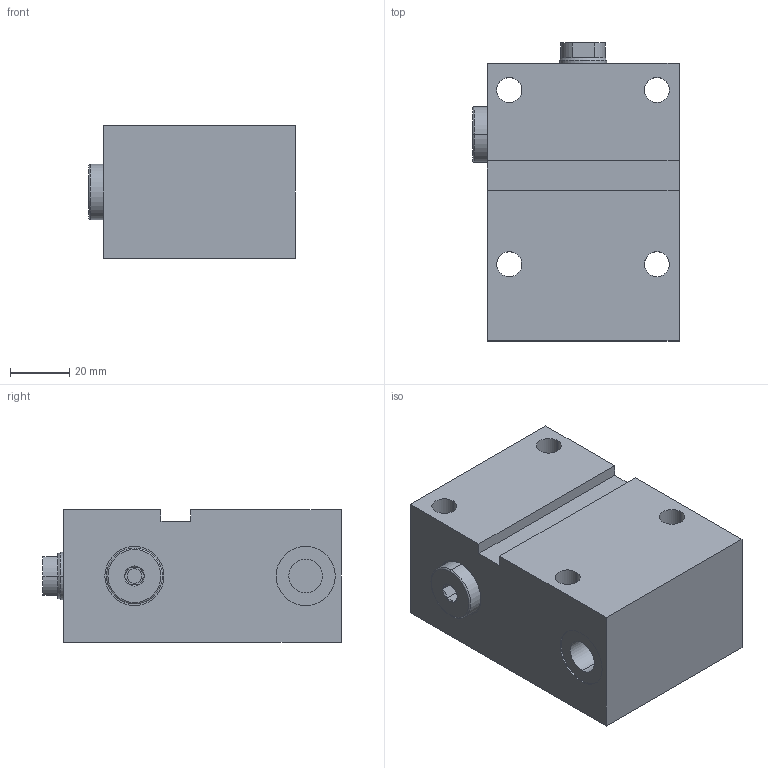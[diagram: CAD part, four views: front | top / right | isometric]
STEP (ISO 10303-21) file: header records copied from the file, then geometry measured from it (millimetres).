
FILE_DESCRIPTION (( 'STEP AP203' ), '1' );
FILE_NAME ('GERMA_Blockzylinder_651-025-020.STEP', '2023-08-26T14:42:45', ( '' ), ( '' ), 'SwSTEP 2.0', 'SolidWorks 2016', '' );
FILE_SCHEMA (( 'CONFIG_CONTROL_DESIGN' ));
Length unit declared in the file: millimetre
Products named in the file (3): Kolben 60x-025_Kolben DU.25-Hub50-IG; GH-600-025-ew_GH-651-025-020; GERMA_Blockzylinder_651-025-020
Assembly tree (2 placements, depth 2):
  GERMA_Blockzylinder_651-025-020
    GH-600-025-ew_GH-651-025-020
    Kolben 60x-025_Kolben DU.25-Hub50-IG
Bounding box: 69.8 x 101 x 45 mm (x, y, z)
Volume: 253714 mm3; surface area: 44921.9 mm2
Topology: 2 solids, 2 shells, 99 faces, 227 edges, 142 vertices
Faces by surface type: cylinder 41, plane 35, cone 21, torus 2
Entity records: 3141 total; most frequent: CARTESIAN_POINT 530, DIRECTION 526, ORIENTED_EDGE 442, EDGE_CURVE 221, AXIS2_PLACEMENT_3D 208, VERTEX_POINT 142, EDGE_LOOP 123, LINE 110
